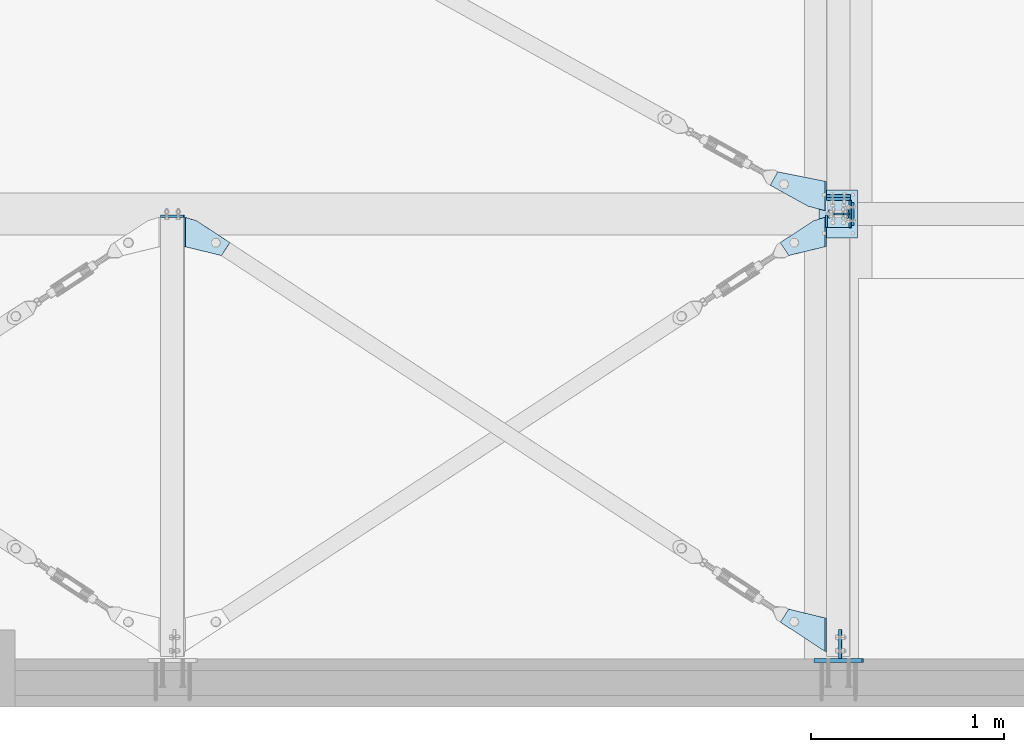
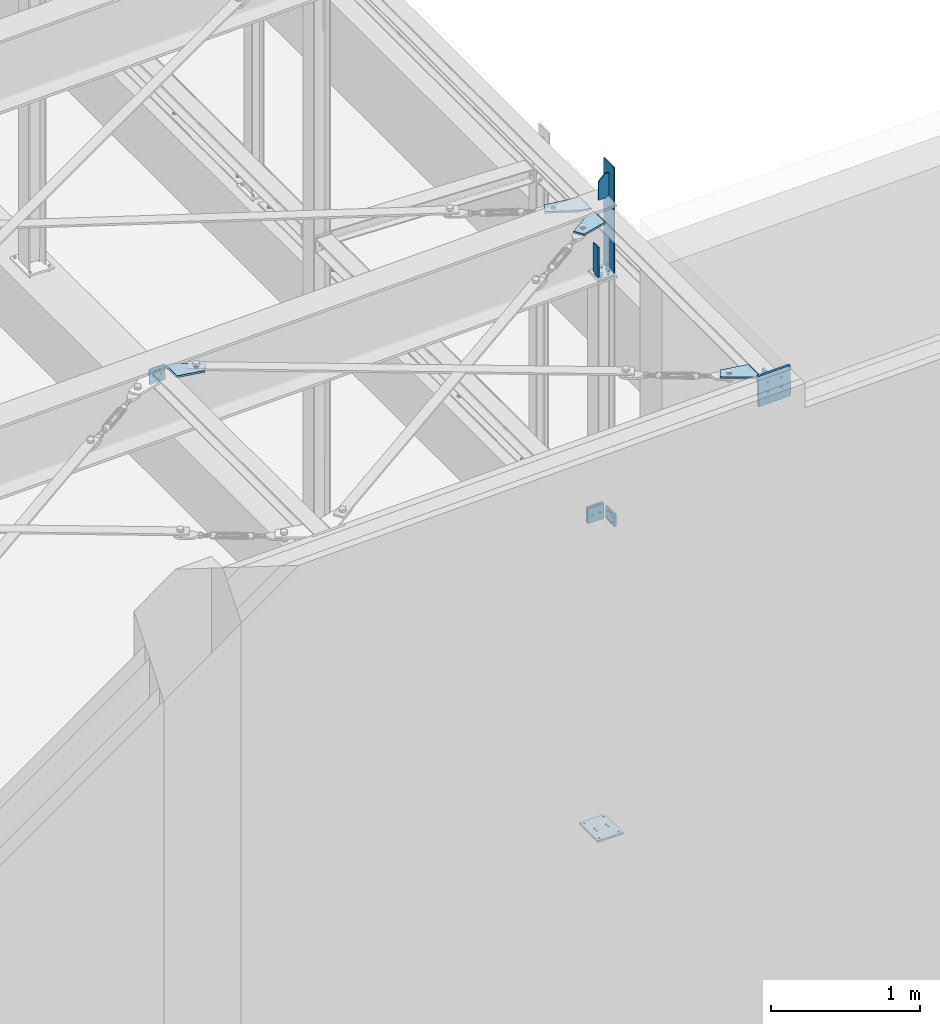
# One storey, part 41 of 476: 15 plates, 59 openings.
"""IFC2X3 building model written with IfcOpenShell, lengths in millimetres."""

from ifc_helpers import new_model, entity, si_unit, converted_unit, point, frame, frame_2d, origin, origin_with_axes, origin_2d_with_axis, place, context, project, spatial, polyline, circle_curve, line_curve, trimmed, segment, composite_curve, circle, outline, extrude, material, layer, layer_set, element, save


model = new_model("IFC2X3")

# Units and contexts
model_context = context("Model", 3, precision=1e-09, world=origin_with_axes())
ifc_project = project(units=[si_unit("LENGTHUNIT", "METRE", prefix="MILLI"), si_unit("AREAUNIT", "SQUARE_METRE"), si_unit("VOLUMEUNIT", "CUBIC_METRE"), converted_unit("PLANEANGLEUNIT", "DEGREE", entity("IfcPlaneAngleMeasure", 0.01745329), si_unit("PLANEANGLEUNIT", "RADIAN"), dimensions=[0, 0, 0, 0, 0, 0, 0])], contexts=[model_context])

# Site, building, storey
site_placement = place(None, origin_with_axes())
site = spatial("IfcSite", under=ifc_project, at=site_placement, Name="mKR Teilneubau & Sanierung BA1 - Ostfildern", CompositionType="ELEMENT")
building_placement = place(site_placement, origin_with_axes())
building = spatial("IfcBuilding", under=site, at=building_placement, Name="Struktur 1", CompositionType="ELEMENT")
storey_placement = place(building_placement, origin_with_axes())
storey = spatial("IfcBuildingStorey", under=building, at=storey_placement, Name="Default Storey", CompositionType="ELEMENT", Elevation=0.0)

# Plate, openings
ifc_material = material(Name="S235JR")
ifc_layer_1 = layer(ifc_material, 15.0)
ifc_layer_set_1 = layer_set([ifc_layer_1], Name="S235JR")
plate_1_placement = place(None, frame((21903.922230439, -21243.67487897, 5627.187688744), z_axis=(-0.029990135, 0.0, 0.999550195), x_axis=(-0.999550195, 0.0, -0.029990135)))
plate_1 = element("IfcPlate", 1, at=plate_1_placement, inside=storey, material=ifc_layer_set_1, Name="-", ObjectType="-", context=model_context, shape_type="SweptSolid", body=[
    extrude(outline(polyline([(0.0, 0.0), (40.371139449, 0.0), (239.157976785, 130.393742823), (195.281580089, 197.285566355), (1e-09, 150.0), (0.0, 0.0)])), origin_with_axes(), (0.0, 0.0, -1.0), 15.0),
])
opening_1_placement = place(plate_1_placement, frame((0.0, -0.001, 0.0), z_axis=(0.0, 1.0, 0.0), x_axis=(1.0, 0.0, 0.0)))
element("IfcOpeningElement", 2, at=opening_1_placement, cuts=plate_1, ObjectType="Opening", context=model_context, shape_type="SweptSolid", body=[
    extrude(outline(polyline([(0.0, 0.0), (8.0, 0.0), (0.0, 8.0), (0.0, 0.0)])), origin(), (0.0, 0.0, 1.0), 151.959123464),
])
opening_2_placement = place(plate_1_placement, frame((40.371139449, 0.0, 0.01), z_axis=(0.0, 0.0, 1.0), x_axis=(0.83616389, 0.548479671, 0.0)))
element("IfcOpeningElement", 3, at=opening_2_placement, cuts=plate_1, ObjectType="Opening", context=model_context, shape_type="SweptSolid", body=[
    extrude(outline(composite_curve([segment(trimmed(line_curve((0.0, 0.0), (1.0, 0.0), 29.87095402), [point((0.0, 0.0))], [point((29.87095402, 0.0))], True, "CARTESIAN"), True, "CONTINUOUS"), segment(trimmed(circle_curve(frame_2d((29.87095402, 100.0), x_axis=(-1.0, 0.0)), 100.0), [point((29.87095402, 0.0))], [point((-24.9770131, 16.383611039))], False, "CARTESIAN"), True, "CONTINUOUS"), segment(trimmed(line_curve((-24.9770131, 16.383611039), (0.83616389, -0.548479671), 29.87095402), [point((-24.9770131, 16.383611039))], [point((0.0, 0.0))], True, "CARTESIAN"), True, "CONTINUOUS")], self_intersect=False)), origin(), (0.0, 0.0, -1.0), 15.02),
])
opening_3_placement = place(plate_1_placement, frame((167.050213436, 145.431465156, -15.5), z_axis=(0.0, 0.0, -1.0), x_axis=(-1.0, 0.0, 0.0)))
element("IfcOpeningElement", 4, at=opening_3_placement, cuts=plate_1, ObjectType="Opening", context=model_context, shape_type="SweptSolid", body=[
    extrude(circle(Radius=14.501, at=frame_2d((0.0, -14.501), x_axis=(1.0, 0.0))), origin(), (0.0, 0.0, -1.0), 16.0),
])

plate_2_placement = place(None, frame((21903.922010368, -23320.388789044, 5627.187682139), z_axis=(-0.030004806, 0.0, 0.999549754), x_axis=(-0.971475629, 0.23533949, -0.029162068)))
plate_2 = element("IfcPlate", 5, at=plate_2_placement, inside=storey, material=ifc_layer_set_1, Name="-", ObjectType="-", context=model_context, shape_type="SweptSolid", body=[
    extrude(outline(polyline([(0.0, 0.0), (200.924912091, 0.0), (227.827566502, 75.338578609), (-41.531266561, 171.523929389), (0.0, 0.0)])), origin_with_axes(), (0.0, 0.0, -1.0), 15.0),
])
opening_4_placement = place(plate_2_placement, frame((0.456082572, -1.883618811, 0.0), z_axis=(-0.235330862, 0.971915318, 0.0), x_axis=(0.971915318, 0.235330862, 0.0)))
element("IfcOpeningElement", 6, at=opening_4_placement, cuts=plate_2, ObjectType="Opening", context=model_context, shape_type="SweptSolid", body=[
    extrude(outline(polyline([(0.0, 0.0), (8.0, 0.0), (0.0, 8.0), (0.0, 0.0)])), origin(), (0.0, 0.0, 1.0), 178.43837142),
])
opening_5_placement = place(plate_2_placement, frame((157.870504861, 57.84744696, -15.499797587), z_axis=(-1.4266e-05, -3.454e-06, 1.0), x_axis=(-0.23533949, 0.971913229, 0.0)))
element("IfcOpeningElement", 7, at=opening_5_placement, cuts=plate_2, ObjectType="Opening", context=model_context, shape_type="SweptSolid", body=[
    extrude(circle(Radius=14.501, at=origin_2d_with_axis()), origin(), (0.0, 0.0, 1.0), 16.000000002),
])

plate_3_placement = place(None, frame((18573.864840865, -21243.67487897, 5527.224882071), z_axis=(0.030019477, 0.0, -0.999549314), x_axis=(0.999549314, 0.0, 0.030019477)))
plate_3 = element("IfcPlate", 8, at=plate_3_placement, inside=storey, material=ifc_layer_set_1, Name="-", ObjectType="-", context=model_context, shape_type="SweptSolid", body=[
    extrude(outline(polyline([(0.0, 0.0), (40.371139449, 0.0), (239.157976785, 130.393742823), (195.281580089, 197.285566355), (1e-09, 150.0), (0.0, 0.0)])), origin_with_axes(), (0.0, 0.0, 1.0), 15.0),
])
opening_6_placement = place(plate_3_placement, frame((1e-09, 151.938123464, 0.0), z_axis=(0.0, -1.0, 0.0), x_axis=(1.0, 0.0, 0.0)))
element("IfcOpeningElement", 9, at=opening_6_placement, cuts=plate_3, ObjectType="Opening", context=model_context, shape_type="SweptSolid", body=[
    extrude(outline(polyline([(0.0, 0.0), (8.0, 0.0), (0.0, 8.0), (0.0, 0.0)])), origin(), (0.0, 0.0, 1.0), 151.959123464),
])
opening_7_placement = place(plate_3_placement, frame((0.0, 0.0, -0.01), z_axis=(0.0, 0.0, 1.0), x_axis=(1.0, 0.0, 0.0)))
element("IfcOpeningElement", 10, at=opening_7_placement, cuts=plate_3, ObjectType="Opening", context=model_context, shape_type="SweptSolid", body=[
    extrude(outline(composite_curve([segment(trimmed(line_curve((40.371139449, 0.0), (0.83616389, 0.548479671), 29.87095402), [point((40.371139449, 0.0))], [point((65.348152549, 16.383611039))], True, "CARTESIAN"), True, "CONTINUOUS"), segment(trimmed(circle_curve(frame_2d((10.500185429, 100.0), x_axis=(-1.0, 0.0)), 100.0), [point((65.348152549, 16.383611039))], [point((10.500185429, 0.0))], False, "CARTESIAN"), True, "CONTINUOUS"), segment(trimmed(line_curve((10.500185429, 0.0), (1.0, 0.0), 29.87095402), [point((10.500185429, 0.0))], [point((40.371139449, 0.0))], True, "CARTESIAN"), True, "CONTINUOUS")], self_intersect=False)), origin(), (0.0, 0.0, 1.0), 15.02),
])
opening_8_placement = place(plate_3_placement, frame((167.050213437, 130.930465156, 15.5), z_axis=(0.0, 0.0, -1.0), x_axis=(0.0, -1.0, 0.0)))
element("IfcOpeningElement", 11, at=opening_8_placement, cuts=plate_3, ObjectType="Opening", context=model_context, shape_type="SweptSolid", body=[
    extrude(circle(Radius=14.501, at=origin_2d_with_axis()), origin(), (0.0, 0.0, 1.0), 16.0),
])

ifc_layer_2 = layer(ifc_material, 10.0)
ifc_layer_set_2 = layer_set([ifc_layer_2], Name="S235JR")
plate_4_placement = place(None, frame((21942.108764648, -21220.67387897, 5888.306606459), z_axis=(0.0, 1.0, 0.0), x_axis=(1.0, 0.0, 0.0)))
plate_4 = element("IfcPlate", 12, at=plate_4_placement, inside=storey, material=ifc_layer_set_2, Name="-", ObjectType="-", context=model_context, shape_type="SweptSolid", body=[
    extrude(outline(polyline([(0.0, 0.0), (80.0, 0.0), (80.0, 197.595559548), (0.0, 200.0), (0.0, 0.0)])), origin_with_axes(), (0.0, 0.0, -1.0), 10.0),
])
opening_9_placement = place(plate_4_placement, frame((0.0, 0.0, 0.01), z_axis=(0.0, 0.0, 1.0), x_axis=(1.0, 0.0, 0.0)))
element("IfcOpeningElement", 13, at=opening_9_placement, cuts=plate_4, ObjectType="Opening", context=model_context, shape_type="SweptSolid", body=[
    extrude(outline(polyline([(0.0, 0.0), (50.0, 0.0), (0.0, 50.0), (0.0, 0.0)])), origin(), (0.0, 0.0, -1.0), 10.02),
])
opening_10_placement = place(plate_4_placement, frame((80.0, 197.595559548, 0.01), z_axis=(0.0, 0.0, 1.0), x_axis=(-0.999548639, 0.03004194, 0.0)))
element("IfcOpeningElement", 14, at=opening_10_placement, cuts=plate_4, ObjectType="Opening", context=model_context, shape_type="SweptSolid", body=[
    extrude(outline(polyline([(0.0, 0.0), (20.0, 0.0), (-0.600838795, 19.990972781), (0.0, 0.0)])), origin(), (0.0, 0.0, -1.0), 10.02),
])

ifc_layer_3 = layer(ifc_material, 20.0)
ifc_layer_set_3 = layer_set([ifc_layer_3], Name="S235JR")
plate_5_placement = place(None, frame((21838.201791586, -23549.67387897, 5685.193959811), z_axis=(0.0, 1.0, 0.0), x_axis=(0.999548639, 0.0, 0.030041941)))
plate_5 = element("IfcPlate", 15, at=plate_5_placement, inside=storey, material=ifc_layer_set_3, Name="-", ObjectType="-", context=model_context, shape_type="SweptSolid", body=[
    extrude(outline(polyline([(0.0, 0.0), (250.0, 0.0), (250.0, 250.0), (0.0, 250.0), (0.0, 0.0)])), origin_with_axes(), (0.0, 0.0, 1.0), 20.0),
])
opening_11_placement = place(plate_5_placement, frame((72.0, 152.0, 20.5), z_axis=(0.0, 0.0, -1.0), x_axis=(1.0, 0.0, 0.0)))
element("IfcOpeningElement", 16, at=opening_11_placement, cuts=plate_5, ObjectType="Opening", context=model_context, shape_type="SweptSolid", body=[
    extrude(circle(Radius=8.501, at=origin_2d_with_axis()), origin(), (0.0, 0.0, 1.0), 21.0),
])
opening_12_placement = place(plate_5_placement, frame((178.0, 152.0, 20.5), z_axis=(0.0, 0.0, -1.0), x_axis=(1.0, 0.0, 0.0)))
element("IfcOpeningElement", 17, at=opening_12_placement, cuts=plate_5, ObjectType="Opening", context=model_context, shape_type="SweptSolid", body=[
    extrude(circle(Radius=8.501, at=origin_2d_with_axis()), origin(), (0.0, 0.0, 1.0), 21.0),
])
opening_13_placement = place(plate_5_placement, frame((178.0, 72.0, 20.5), z_axis=(0.0, 0.0, -1.0), x_axis=(1.0, 0.0, 0.0)))
element("IfcOpeningElement", 18, at=opening_13_placement, cuts=plate_5, ObjectType="Opening", context=model_context, shape_type="SweptSolid", body=[
    extrude(circle(Radius=8.501, at=origin_2d_with_axis()), origin(), (0.0, 0.0, 1.0), 21.0),
])
opening_14_placement = place(plate_5_placement, frame((72.0, 72.0, 20.5), z_axis=(0.0, 0.0, -1.0), x_axis=(1.0, 0.0, 0.0)))
element("IfcOpeningElement", 19, at=opening_14_placement, cuts=plate_5, ObjectType="Opening", context=model_context, shape_type="SweptSolid", body=[
    extrude(circle(Radius=8.501, at=origin_2d_with_axis()), origin(), (0.0, 0.0, 1.0), 21.0),
])

plate_6_placement = place(None, frame((21983.098058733, -23454.67387897, 5572.509863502), z_axis=(-0.999548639, 0.0, -0.030041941), x_axis=(0.0, -1.0, 0.0)))
plate_6 = element("IfcPlate", 20, at=plate_6_placement, inside=storey, material=ifc_layer_set_1, Name="-", ObjectType="-", context=model_context, shape_type="SweptSolid", body=[
    extrude(outline(polyline([(-75.0, -37.5), (75.0, -37.5), (75.0, 37.5), (-75.0, 37.5), (-75.0, -37.5)])), origin_with_axes(), (0.0, 0.0, 1.0), 15.0),
])
opening_15_placement = place(plate_6_placement, frame((1.0353e-05, 2.166e-06, -0.5), z_axis=(0.0, 0.0, 1.0), x_axis=(1.0, 0.0, 0.0)))
element("IfcOpeningElement", 21, at=opening_15_placement, cuts=plate_6, ObjectType="Opening", context=model_context, shape_type="SweptSolid", body=[
    extrude(circle(Radius=9.001, at=frame_2d((35.0, 0.0), x_axis=(1.0, 0.0))), origin(), (0.0, 0.0, 1.0), 16.0),
])
opening_16_placement = place(plate_6_placement, frame((1.0353e-05, 2.166e-06, -0.5), z_axis=(0.0, 0.0, 1.0), x_axis=(1.0, 0.0, 0.0)))
element("IfcOpeningElement", 22, at=opening_16_placement, cuts=plate_6, ObjectType="Opening", context=model_context, shape_type="SweptSolid", body=[
    extrude(circle(Radius=9.001, at=frame_2d((-35.0, 0.0), x_axis=(1.0, 0.0))), origin(), (0.0, 0.0, 1.0), 16.0),
])

plate_7_placement = place(None, frame((22047.108764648, -21225.67387897, 3065.630813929), z_axis=(-1.0, 0.0, 0.0), x_axis=(0.0, 0.0, -1.0)))
plate_7 = element("IfcPlate", 23, at=plate_7_placement, inside=storey, material=ifc_layer_set_1, Name="Endplate", ObjectType="Endplate", context=model_context, shape_type="SweptSolid", body=[
    extrude(outline(polyline([(-52.0, -60.0), (52.0, -60.0), (52.0, 60.0), (-52.0, 60.0), (-52.0, -60.0)])), origin_with_axes(), (0.0, 0.0, 1.0), 15.0),
])
opening_17_placement = place(plate_7_placement, frame((-37.020699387, 14.5, 15.5), z_axis=(0.0, 0.0, -1.0), x_axis=(-1.0, 0.0, 0.0)))
element("IfcOpeningElement", 24, at=opening_17_placement, cuts=plate_7, ObjectType="Opening", context=model_context, shape_type="SweptSolid", body=[
    extrude(circle(Radius=6.001, at=origin_2d_with_axis()), origin(), (0.0, 0.0, 1.0), 16.0),
])
opening_18_placement = place(plate_7_placement, frame((37.020699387, 14.5, 15.5), z_axis=(0.0, 0.0, -1.0), x_axis=(-1.0, 0.0, 0.0)))
element("IfcOpeningElement", 25, at=opening_18_placement, cuts=plate_7, ObjectType="Opening", context=model_context, shape_type="SweptSolid", body=[
    extrude(circle(Radius=6.001, at=origin_2d_with_axis()), origin(), (0.0, 0.0, 1.0), 16.0),
])
opening_19_placement = place(plate_7_placement, frame((37.020699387, -14.5, 15.5), z_axis=(0.0, 0.0, -1.0), x_axis=(-1.0, 0.0, 0.0)))
element("IfcOpeningElement", 26, at=opening_19_placement, cuts=plate_7, ObjectType="Opening", context=model_context, shape_type="SweptSolid", body=[
    extrude(circle(Radius=6.001, at=origin_2d_with_axis()), origin(), (0.0, 0.0, 1.0), 16.0),
])
opening_20_placement = place(plate_7_placement, frame((-37.020699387, -14.5, 15.5), z_axis=(0.0, 0.0, -1.0), x_axis=(-1.0, 0.0, 0.0)))
element("IfcOpeningElement", 27, at=opening_20_placement, cuts=plate_7, ObjectType="Opening", context=model_context, shape_type="SweptSolid", body=[
    extrude(circle(Radius=6.001, at=origin_2d_with_axis()), origin(), (0.0, 0.0, 1.0), 16.0),
])
opening_21_placement = place(plate_7_placement, frame((25.0, 35.0, 15.5), z_axis=(0.0, 0.0, -1.0), x_axis=(0.0, 1.0, 0.0)))
element("IfcOpeningElement", 28, at=opening_21_placement, cuts=plate_7, ObjectType="Opening", context=model_context, shape_type="SweptSolid", body=[
    extrude(circle(Radius=7.001, at=origin_2d_with_axis()), origin(), (0.0, 0.0, 1.0), 16.0),
])
opening_22_placement = place(plate_7_placement, frame((-25.0, -35.0, 15.5), z_axis=(0.0, 0.0, -1.0), x_axis=(0.0, -1.0, 0.0)))
element("IfcOpeningElement", 29, at=opening_22_placement, cuts=plate_7, ObjectType="Opening", context=model_context, shape_type="SweptSolid", body=[
    extrude(circle(Radius=7.001, at=origin_2d_with_axis()), origin(), (0.0, 0.0, 1.0), 16.0),
])
opening_23_placement = place(plate_7_placement, frame((-25.0, 35.0, 15.5), z_axis=(0.0, 0.0, -1.0), x_axis=(0.0, 1.0, 0.0)))
element("IfcOpeningElement", 30, at=opening_23_placement, cuts=plate_7, ObjectType="Opening", context=model_context, shape_type="SweptSolid", body=[
    extrude(circle(Radius=7.001, at=origin_2d_with_axis()), origin(), (0.0, 0.0, 1.0), 16.0),
])
opening_24_placement = place(plate_7_placement, frame((25.0, -35.0, 15.5), z_axis=(0.0, 0.0, -1.0), x_axis=(0.0, -1.0, 0.0)))
element("IfcOpeningElement", 31, at=opening_24_placement, cuts=plate_7, ObjectType="Opening", context=model_context, shape_type="SweptSolid", body=[
    extrude(circle(Radius=7.001, at=origin_2d_with_axis()), origin(), (0.0, 0.0, 1.0), 16.0),
])

plate_8_placement = place(None, frame((21903.92386925, -21207.67487897, 5627.158981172), z_axis=(0.030019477, 0.0, -0.999549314), x_axis=(-0.999549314, 0.0, -0.030019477)))
plate_8 = element("IfcPlate", 32, at=plate_8_placement, inside=storey, material=ifc_layer_set_1, Name="-", ObjectType="-", context=model_context, shape_type="SweptSolid", body=[
    extrude(outline(polyline([(0.0, 0.0), (55.140356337, 0.0), (291.381008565, 130.729269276), (252.646618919, 200.726934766), (1e-09, 150.0), (0.0, 0.0)])), origin_with_axes(), (0.0, 0.0, 1.0), 15.0),
])
opening_25_placement = place(plate_8_placement, frame((0.0, 0.0, -0.01), z_axis=(0.0, 0.0, 1.0), x_axis=(1.0, 0.0, 0.0)))
element("IfcOpeningElement", 33, at=opening_25_placement, cuts=plate_8, ObjectType="Opening", context=model_context, shape_type="SweptSolid", body=[
    extrude(outline(composite_curve([segment(trimmed(line_curve((55.140356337, 0.0), (0.874966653, 0.484183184), 45.191234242), [point((55.140356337, 0.0))], [point((94.681179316, 21.880835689))], True, "CARTESIAN"), True, "CONTINUOUS"), segment(trimmed(circle_curve(frame_2d((9.949122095, 175.0), x_axis=(-1.0, 0.0)), 175.0), [point((94.681179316, 21.880835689))], [point((9.949122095, 0.0))], False, "CARTESIAN"), True, "CONTINUOUS"), segment(trimmed(line_curve((9.949122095, 0.0), (1.0, 0.0), 45.191234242), [point((9.949122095, 0.0))], [point((55.140356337, 0.0))], True, "CARTESIAN"), True, "CONTINUOUS")], self_intersect=False)), origin(), (0.0, 0.0, 1.0), 15.02),
])
opening_26_placement = place(plate_8_placement, frame((1e-09, 151.607257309, 0.0), z_axis=(0.0, -1.0, 0.0), x_axis=(1.0, 0.0, 0.0)))
element("IfcOpeningElement", 34, at=opening_26_placement, cuts=plate_8, ObjectType="Opening", context=model_context, shape_type="SweptSolid", body=[
    extrude(outline(polyline([(0.0, 0.0), (8.0, 0.0), (0.0, 8.0), (0.0, 0.0)])), origin(), (0.0, 0.0, 1.0), 151.628257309),
])
opening_27_placement = place(plate_8_placement, frame((219.516286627, 136.677834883, 15.499690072), z_axis=(2.2474e-05, 0.0, -1.0), x_axis=(0.874966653, 0.484183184, 1.9664e-05)))
element("IfcOpeningElement", 35, at=opening_27_placement, cuts=plate_8, ObjectType="Opening", context=model_context, shape_type="SweptSolid", body=[
    extrude(circle(Radius=14.501, at=origin_2d_with_axis()), origin(), (0.0, 0.0, 1.0), 16.000000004),
])

plate_9_placement = place(None, frame((22065.608764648, -21100.67387897, 540.0), z_axis=(0.0, 0.0, -1.0), x_axis=(0.0, -1.0, 0.0)))
plate_9 = element("IfcPlate", 36, at=plate_9_placement, inside=storey, material=ifc_layer_set_1, Name="Baseplate", ObjectType="Baseplate", context=model_context, shape_type="SweptSolid", body=[
    extrude(outline(polyline([(0.0, 0.0), (250.0, 0.0), (250.0, 200.0), (0.0, 200.0), (0.0, 0.0)])), origin_with_axes(), (0.0, 0.0, 1.0), 15.0),
])
opening_28_placement = place(plate_9_placement, frame((110.25, 146.0, 15.5), z_axis=(0.0, 0.0, -1.0), x_axis=(0.0, -1.0, 0.0)))
element("IfcOpeningElement", 37, at=opening_28_placement, cuts=plate_9, ObjectType="Opening", context=model_context, shape_type="SweptSolid", body=[
    extrude(circle(Radius=6.001, at=origin_2d_with_axis()), origin(), (0.0, 0.0, 1.0), 16.0),
])
opening_29_placement = place(plate_9_placement, frame((110.25, 54.0, 15.5), z_axis=(0.0, 0.0, -1.0), x_axis=(0.0, -1.0, 0.0)))
element("IfcOpeningElement", 38, at=opening_29_placement, cuts=plate_9, ObjectType="Opening", context=model_context, shape_type="SweptSolid", body=[
    extrude(circle(Radius=6.001, at=origin_2d_with_axis()), origin(), (0.0, 0.0, 1.0), 16.0),
])
opening_30_placement = place(plate_9_placement, frame((139.75, 54.0, 15.5), z_axis=(0.0, 0.0, -1.0), x_axis=(0.0, -1.0, 0.0)))
element("IfcOpeningElement", 39, at=opening_30_placement, cuts=plate_9, ObjectType="Opening", context=model_context, shape_type="SweptSolid", body=[
    extrude(circle(Radius=6.001, at=origin_2d_with_axis()), origin(), (0.0, 0.0, 1.0), 16.0),
])
opening_31_placement = place(plate_9_placement, frame((139.75, 146.0, 15.5), z_axis=(0.0, 0.0, -1.0), x_axis=(0.0, -1.0, 0.0)))
element("IfcOpeningElement", 40, at=opening_31_placement, cuts=plate_9, ObjectType="Opening", context=model_context, shape_type="SweptSolid", body=[
    extrude(circle(Radius=6.001, at=origin_2d_with_axis()), origin(), (0.0, 0.0, 1.0), 16.0),
])
opening_32_placement = place(plate_9_placement, frame((125.0, 100.0, 15.5), z_axis=(0.0, 0.0, -1.0), x_axis=(1.0, 0.0, 0.0)))
element("IfcOpeningElement", 41, at=opening_32_placement, cuts=plate_9, ObjectType="Opening", context=model_context, shape_type="SweptSolid", body=[
    extrude(circle(Radius=6.001, at=frame_2d((100.0, 75.0), x_axis=(1.0, 0.0))), origin(), (0.0, 0.0, 1.0), 16.0),
])
opening_33_placement = place(plate_9_placement, frame((125.0, 100.0, 15.5), z_axis=(0.0, 0.0, -1.0), x_axis=(1.0, 0.0, 0.0)))
element("IfcOpeningElement", 42, at=opening_33_placement, cuts=plate_9, ObjectType="Opening", context=model_context, shape_type="SweptSolid", body=[
    extrude(circle(Radius=6.001, at=frame_2d((-100.0, 75.0), x_axis=(1.0, 0.0))), origin(), (0.0, 0.0, 1.0), 16.0),
])
opening_34_placement = place(plate_9_placement, frame((125.0, 100.0, 15.5), z_axis=(0.0, 0.0, -1.0), x_axis=(1.0, 0.0, 0.0)))
element("IfcOpeningElement", 43, at=opening_34_placement, cuts=plate_9, ObjectType="Opening", context=model_context, shape_type="SweptSolid", body=[
    extrude(circle(Radius=6.001, at=frame_2d((100.0, -75.0), x_axis=(1.0, 0.0))), origin(), (0.0, 0.0, 1.0), 16.0),
])
opening_35_placement = place(plate_9_placement, frame((125.0, 100.0, 15.5), z_axis=(0.0, 0.0, -1.0), x_axis=(1.0, 0.0, 0.0)))
element("IfcOpeningElement", 44, at=opening_35_placement, cuts=plate_9, ObjectType="Opening", context=model_context, shape_type="SweptSolid", body=[
    extrude(circle(Radius=6.001, at=frame_2d((-100.0, -75.0), x_axis=(1.0, 0.0))), origin(), (0.0, 0.0, 1.0), 16.0),
])

plate_10_placement = place(None, frame((21965.608780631, -21125.67387897, 3068.000017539), z_axis=(0.0, -1.0, 0.0), x_axis=(0.0, 0.0, -1.0)))
plate_10 = element("IfcPlate", 45, at=plate_10_placement, inside=storey, material=ifc_layer_set_1, Name="Endplate#1", ObjectType="Endplate#1", context=model_context, shape_type="SweptSolid", body=[
    extrude(outline(polyline([(-62.0, -62.0), (62.0, -62.0), (62.0, 62.0), (-62.0, 62.0), (-62.0, -62.0)])), origin_with_axes(), (0.0, 0.0, 1.0), 15.0),
])
opening_36_placement = place(plate_10_placement, frame((37.0, -14.5, 15.5), z_axis=(0.0, 0.0, -1.0), x_axis=(1.0, 0.0, 0.0)))
element("IfcOpeningElement", 46, at=opening_36_placement, cuts=plate_10, ObjectType="Opening", context=model_context, shape_type="SweptSolid", body=[
    extrude(circle(Radius=6.001, at=origin_2d_with_axis()), origin(), (0.0, 0.0, 1.0), 16.0),
])
opening_37_placement = place(plate_10_placement, frame((-37.0, -14.5, 15.5), z_axis=(0.0, 0.0, -1.0), x_axis=(1.0, 0.0, 0.0)))
element("IfcOpeningElement", 47, at=opening_37_placement, cuts=plate_10, ObjectType="Opening", context=model_context, shape_type="SweptSolid", body=[
    extrude(circle(Radius=6.001, at=origin_2d_with_axis()), origin(), (0.0, 0.0, 1.0), 16.0),
])
opening_38_placement = place(plate_10_placement, frame((-37.0, 14.5, 15.5), z_axis=(0.0, 0.0, -1.0), x_axis=(1.0, 0.0, 0.0)))
element("IfcOpeningElement", 48, at=opening_38_placement, cuts=plate_10, ObjectType="Opening", context=model_context, shape_type="SweptSolid", body=[
    extrude(circle(Radius=6.001, at=origin_2d_with_axis()), origin(), (0.0, 0.0, 1.0), 16.0),
])
opening_39_placement = place(plate_10_placement, frame((37.0, 14.5, 15.5), z_axis=(0.0, 0.0, -1.0), x_axis=(1.0, 0.0, 0.0)))
element("IfcOpeningElement", 49, at=opening_39_placement, cuts=plate_10, ObjectType="Opening", context=model_context, shape_type="SweptSolid", body=[
    extrude(circle(Radius=6.001, at=origin_2d_with_axis()), origin(), (0.0, 0.0, 1.0), 16.0),
])
opening_40_placement = place(plate_10_placement, frame((0.0, 30.0, 15.5), z_axis=(0.0, 0.0, -1.0), x_axis=(-1.0, 0.0, 0.0)))
element("IfcOpeningElement", 50, at=opening_40_placement, cuts=plate_10, ObjectType="Opening", context=model_context, shape_type="SweptSolid", body=[
    extrude(circle(Radius=7.001, at=origin_2d_with_axis()), origin(), (0.0, 0.0, 1.0), 16.0),
])
opening_41_placement = place(plate_10_placement, frame((0.0, -30.0, 15.5), z_axis=(0.0, 0.0, -1.0), x_axis=(0.0, -1.0, 0.0)))
element("IfcOpeningElement", 51, at=opening_41_placement, cuts=plate_10, ObjectType="Opening", context=model_context, shape_type="SweptSolid", body=[
    extrude(circle(Radius=7.001, at=origin_2d_with_axis()), origin(), (0.0, 0.0, 1.0), 16.0),
])

plate_11_placement = place(None, frame((21965.608764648, -21155.67387897, 3068.000017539), z_axis=(0.0, 1.0, 0.0), x_axis=(1.0, 0.0, 0.0)))
plate_11 = element("IfcPlate", 52, at=plate_11_placement, inside=storey, material=ifc_layer_set_1, Name="T-plate", ObjectType="T-plate", context=model_context, shape_type="SweptSolid", body=[
    extrude(outline(polyline([(-62.0, -62.0), (62.0, -62.0), (62.0, 62.0), (-62.0, 62.0), (-62.0, -62.0)])), origin_with_axes(), (0.0, 0.0, 1.0), 15.0),
])
opening_42_placement = place(plate_11_placement, frame((30.000015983, 0.0, -0.5), z_axis=(0.0, 0.0, 1.0), x_axis=(0.0, -1.0, 0.0)))
element("IfcOpeningElement", 53, at=opening_42_placement, cuts=plate_11, ObjectType="Opening", context=model_context, shape_type="SweptSolid", body=[
    extrude(circle(Radius=7.001, at=origin_2d_with_axis()), origin(), (0.0, 0.0, 1.0), 16.0),
])
opening_43_placement = place(plate_11_placement, frame((-29.999984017, 0.0, -0.5), z_axis=(0.0, 0.0, 1.0), x_axis=(-1.0, 0.0, 0.0)))
element("IfcOpeningElement", 54, at=opening_43_placement, cuts=plate_11, ObjectType="Opening", context=model_context, shape_type="SweptSolid", body=[
    extrude(circle(Radius=7.001, at=origin_2d_with_axis()), origin(), (0.0, 0.0, 1.0), 16.0),
])

# Plate
plate_12_placement = place(None, frame((22022.108764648, -21295.67387897, 5095.440131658), z_axis=(1.0, 0.0, 0.0), x_axis=(0.0, 1.0, 0.0)))
element("IfcPlate", 55, at=plate_12_placement, inside=storey, material=ifc_layer_set_2, Name="Coverplate", ObjectType="Coverplate", context=model_context, shape_type="SweptSolid", body=[
    extrude(outline(polyline([(0.0, 0.0), (140.0, 0.0), (140.0, 870.270938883), (0.0, 870.270938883), (0.0, 0.0)])), origin_with_axes(), (0.0, 0.0, 1.0), 10.0),
])

# Plate, openings
plate_13_placement = place(None, frame((22027.111021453, -21295.67387897, 5070.581445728), z_axis=(-0.030041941, 0.0, 0.999548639), x_axis=(0.0, 1.0, 0.0)))
plate_13 = element("IfcPlate", 56, at=plate_13_placement, inside=storey, material=ifc_layer_set_3, Name="Endplate", ObjectType="Endplate", context=model_context, shape_type="SweptSolid", body=[
    extrude(outline(polyline([(0.0, 0.0), (140.0, 0.0), (140.0, 123.060058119), (0.0, 123.060058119), (0.0, 0.0)])), origin_with_axes(), (0.0, 0.0, 1.0), 20.0),
])
opening_44_placement = place(plate_13_placement, frame((84.75, 107.556219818, 20.5), z_axis=(0.0, 0.0, -1.0), x_axis=(0.0, 1.0, 0.0)))
element("IfcOpeningElement", 57, at=opening_44_placement, cuts=plate_13, ObjectType="Opening", context=model_context, shape_type="SweptSolid", body=[
    extrude(circle(Radius=6.001, at=origin_2d_with_axis()), origin(), (0.0, 0.0, 1.0), 21.0),
])
opening_45_placement = place(plate_13_placement, frame((84.75, 15.503838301, 20.5), z_axis=(0.0, 0.0, -1.0), x_axis=(0.0, 1.0, 0.0)))
element("IfcOpeningElement", 58, at=opening_45_placement, cuts=plate_13, ObjectType="Opening", context=model_context, shape_type="SweptSolid", body=[
    extrude(circle(Radius=6.001, at=origin_2d_with_axis()), origin(), (0.0, 0.0, 1.0), 21.0),
])
opening_46_placement = place(plate_13_placement, frame((55.25, 15.503838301, 20.5), z_axis=(0.0, 0.0, -1.0), x_axis=(0.0, 1.0, 0.0)))
element("IfcOpeningElement", 59, at=opening_46_placement, cuts=plate_13, ObjectType="Opening", context=model_context, shape_type="SweptSolid", body=[
    extrude(circle(Radius=6.001, at=origin_2d_with_axis()), origin(), (0.0, 0.0, 1.0), 21.0),
])
opening_47_placement = place(plate_13_placement, frame((55.25, 107.556219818, 20.5), z_axis=(0.0, 0.0, -1.0), x_axis=(0.0, 1.0, 0.0)))
element("IfcOpeningElement", 60, at=opening_47_placement, cuts=plate_13, ObjectType="Opening", context=model_context, shape_type="SweptSolid", body=[
    extrude(circle(Radius=6.001, at=origin_2d_with_axis()), origin(), (0.0, 0.0, 1.0), 21.0),
])
opening_48_placement = place(plate_13_placement, frame((17.999, 34.03, -0.5), z_axis=(0.0, 0.0, -1.0), x_axis=(-1.0, 0.0, 0.0)))
element("IfcOpeningElement", 61, at=opening_48_placement, cuts=plate_13, ObjectType="Opening", context=model_context, shape_type="SweptSolid", body=[
    extrude(circle(Radius=7.001, at=frame_2d((-7.001, 0.0), x_axis=(1.0, 0.0))), origin(), (0.0, 0.0, -1.0), 21.0),
])
opening_49_placement = place(plate_13_placement, frame((107.999, 89.03, -0.5), z_axis=(0.0, 0.0, -1.0), x_axis=(-1.0, 0.0, 0.0)))
element("IfcOpeningElement", 62, at=opening_49_placement, cuts=plate_13, ObjectType="Opening", context=model_context, shape_type="SweptSolid", body=[
    extrude(circle(Radius=7.001, at=frame_2d((-7.001, 0.0), x_axis=(1.0, 0.0))), origin(), (0.0, 0.0, -1.0), 21.0),
])
opening_50_placement = place(plate_13_placement, frame((107.999, 34.03, -0.5), z_axis=(0.0, 0.0, -1.0), x_axis=(-1.0, 0.0, 0.0)))
element("IfcOpeningElement", 63, at=opening_50_placement, cuts=plate_13, ObjectType="Opening", context=model_context, shape_type="SweptSolid", body=[
    extrude(circle(Radius=7.001, at=frame_2d((-7.001, 0.0), x_axis=(1.0, 0.0))), origin(), (0.0, 0.0, -1.0), 21.0),
])
opening_51_placement = place(plate_13_placement, frame((17.999, 89.03, -0.5), z_axis=(0.0, 0.0, -1.0), x_axis=(-1.0, 0.0, 0.0)))
element("IfcOpeningElement", 64, at=opening_51_placement, cuts=plate_13, ObjectType="Opening", context=model_context, shape_type="SweptSolid", body=[
    extrude(circle(Radius=7.001, at=frame_2d((-7.001, 0.0), x_axis=(1.0, 0.0))), origin(), (0.0, 0.0, -1.0), 21.0),
])

plate_14_placement = place(None, frame((21909.108764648, -21231.67387897, 5107.553116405), z_axis=(-1.0, 0.0, 0.0), x_axis=(0.0, -1.0, 0.0)))
plate_14 = element("IfcPlate", 65, at=plate_14_placement, inside=storey, material=ifc_layer_set_2, Name="Stiffener#2", ObjectType="Stiffener#2", context=model_context, shape_type="SweptSolid", body=[
    extrude(outline(polyline([(0.0, 0.0), (65.0, 0.0), (65.0, 250.0), (0.0, 250.0), (0.0, 0.0)])), origin_with_axes(), (0.0, 0.0, 1.0), 10.0),
])
opening_52_placement = place(plate_14_placement, frame((0.0, 0.0, -0.01), z_axis=(0.0, 0.0, 1.0), x_axis=(1.0, 0.0, 0.0)))
element("IfcOpeningElement", 66, at=opening_52_placement, cuts=plate_14, ObjectType="Opening", context=model_context, shape_type="SweptSolid", body=[
    extrude(outline(composite_curve([segment(trimmed(line_curve((0.0, 0.0), (1.0, 0.0), 25.0), [point((0.0, 0.0))], [point((25.0, 0.0))], True, "CARTESIAN"), True, "CONTINUOUS"), segment(trimmed(circle_curve(frame_2d((25.0, 25.0), x_axis=(-1.0, 0.0)), 25.0), [point((25.0, 0.0))], [point((0.0, 25.0))], False, "CARTESIAN"), True, "CONTINUOUS"), segment(trimmed(line_curve((0.0, 25.0), (0.0, -1.0), 25.0), [point((0.0, 25.0))], [point((0.0, 0.0))], True, "CARTESIAN"), True, "CONTINUOUS")], self_intersect=False)), origin(), (0.0, 0.0, 1.0), 10.02),
])
opening_53_placement = place(plate_14_placement, frame((24.0, 22.198767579, -0.5), z_axis=(0.0, 0.0, 1.0), x_axis=(0.0, -1.0, 0.0)))
element("IfcOpeningElement", 67, at=opening_53_placement, cuts=plate_14, ObjectType="Opening", context=model_context, shape_type="SweptSolid", body=[
    extrude(circle(Radius=7.001, at=frame_2d((7.0, -7.0), x_axis=(1.0, 0.0))), origin(), (0.0, 0.0, 1.0), 11.0),
])

ifc_layer_4 = layer(ifc_material, 12.0)
ifc_layer_set_4 = layer_set([ifc_layer_4], Name="S235JR")
plate_15_placement = place(None, frame((18573.719128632, -21231.67387897, 5532.069245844), z_axis=(0.0, -1.0, 0.0), x_axis=(-0.999548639, 0.0, -0.030041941)))
plate_15 = element("IfcPlate", 68, at=plate_15_placement, inside=storey, material=ifc_layer_set_4, Name="Endplate", ObjectType="Endplate", context=model_context, shape_type="SweptSolid", body=[
    extrude(outline(polyline([(0.0, 0.0), (120.0, 0.0), (120.0, 124.0), (0.0, 124.0), (0.0, 0.0)])), origin_with_axes(), (0.0, 0.0, 1.0), 12.0),
])
opening_54_placement = place(plate_15_placement, frame((74.5, 99.0, -0.5), z_axis=(0.0, 0.0, 1.0), x_axis=(0.0, -1.0, 0.0)))
element("IfcOpeningElement", 69, at=opening_54_placement, cuts=plate_15, ObjectType="Opening", context=model_context, shape_type="SweptSolid", body=[
    extrude(circle(Radius=6.001, at=origin_2d_with_axis()), origin(), (0.0, 0.0, 1.0), 13.0),
])
opening_55_placement = place(plate_15_placement, frame((74.5, 25.0, -0.5), z_axis=(0.0, 0.0, 1.0), x_axis=(0.0, -1.0, 0.0)))
element("IfcOpeningElement", 70, at=opening_55_placement, cuts=plate_15, ObjectType="Opening", context=model_context, shape_type="SweptSolid", body=[
    extrude(circle(Radius=6.001, at=origin_2d_with_axis()), origin(), (0.0, 0.0, 1.0), 13.0),
])
opening_56_placement = place(plate_15_placement, frame((45.5, 25.0, -0.5), z_axis=(0.0, 0.0, 1.0), x_axis=(0.0, -1.0, 0.0)))
element("IfcOpeningElement", 71, at=opening_56_placement, cuts=plate_15, ObjectType="Opening", context=model_context, shape_type="SweptSolid", body=[
    extrude(circle(Radius=6.001, at=origin_2d_with_axis()), origin(), (0.0, 0.0, 1.0), 13.0),
])
opening_57_placement = place(plate_15_placement, frame((45.5, 99.0, -0.5), z_axis=(0.0, 0.0, 1.0), x_axis=(0.0, -1.0, 0.0)))
element("IfcOpeningElement", 72, at=opening_57_placement, cuts=plate_15, ObjectType="Opening", context=model_context, shape_type="SweptSolid", body=[
    extrude(circle(Radius=6.001, at=origin_2d_with_axis()), origin(), (0.0, 0.0, 1.0), 13.0),
])
opening_58_placement = place(plate_15_placement, frame((30.0, 62.0, -0.5), z_axis=(0.0, 0.0, 1.0), x_axis=(0.0, -1.0, 0.0)))
element("IfcOpeningElement", 73, at=opening_58_placement, cuts=plate_15, ObjectType="Opening", context=model_context, shape_type="SweptSolid", body=[
    extrude(circle(Radius=7.001, at=origin_2d_with_axis()), origin(), (0.0, 0.0, 1.0), 13.0),
])
opening_59_placement = place(plate_15_placement, frame((90.0, 62.0, -0.5), z_axis=(0.0, 0.0, 1.0), x_axis=(0.0, -1.0, 0.0)))
element("IfcOpeningElement", 74, at=opening_59_placement, cuts=plate_15, ObjectType="Opening", context=model_context, shape_type="SweptSolid", body=[
    extrude(circle(Radius=7.001, at=origin_2d_with_axis()), origin(), (0.0, 0.0, 1.0), 13.0),
])

save(model, "model.ifc")
